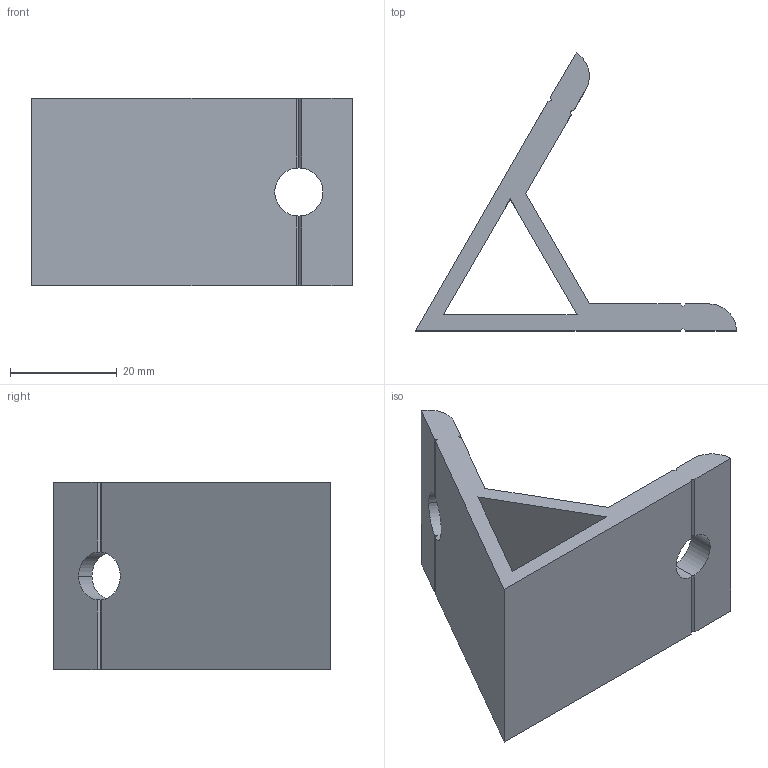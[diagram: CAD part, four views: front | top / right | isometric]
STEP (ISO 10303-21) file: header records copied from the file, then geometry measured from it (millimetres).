
FILE_DESCRIPTION (( 'STEP AP203' ), '1' );
FILE_NAME ('DALV6035-8.STEP', '2019-03-08T06:57:37', ( '' ), ( '' ), 'SwSTEP 2.0', 'SolidWorks 2012', '' );
FILE_SCHEMA (( 'CONFIG_CONTROL_DESIGN' ));
Length unit declared in the file: millimetre
Products named in the file (1): DALV6035-8
Bounding box: 60 x 51.96 x 35 mm (x, y, z)
Volume: 17591.9 mm3; surface area: 10894.4 mm2
Topology: 1 solids, 1 shells, 36 faces, 110 edges, 72 vertices
Faces by surface type: plane 30, cylinder 6
Entity records: 1307 total; most frequent: CARTESIAN_POINT 267, ORIENTED_EDGE 220, DIRECTION 184, EDGE_CURVE 110, VECTOR 78, LINE 78, VERTEX_POINT 72, AXIS2_PLACEMENT_3D 53
